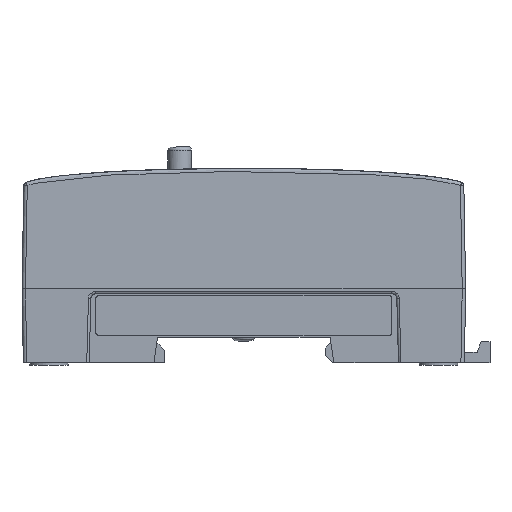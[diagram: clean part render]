
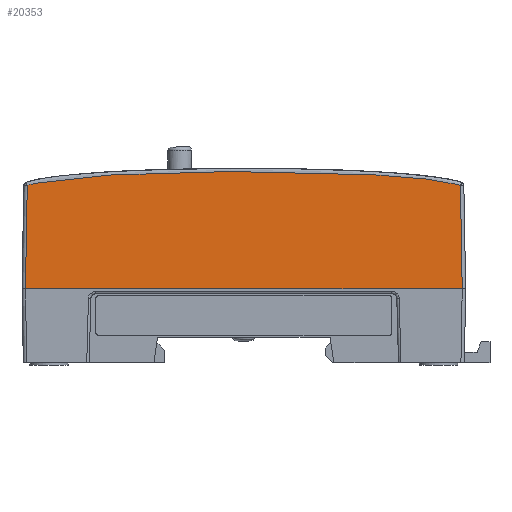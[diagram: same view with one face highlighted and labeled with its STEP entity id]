
A CAD part, left-side view. The second image highlights one B-rep face of the part: STEP entity #20353.
In plain terms, the highlighted planar face has unit normal (-1, 0, 0.018).
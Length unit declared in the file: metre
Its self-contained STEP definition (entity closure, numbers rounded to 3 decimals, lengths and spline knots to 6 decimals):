
#23=B_SPLINE_CURVE_WITH_KNOTS('',3,(#29477,#29478,#29479,#29480,#29481,#29482,#29483,#29484,#29485,#29486,#29487,#29488,#29489,#29490,#29491,#29492,#29493,#29494,#29495,#29496,#29497,#29498,#29499),.UNSPECIFIED.,.F.,.F.,(4,1,1,1,1,1,1,1,1,1,1,1,1,1,1,1,1,1,1,1,4),(0.,0.001385,0.00277,0.00554,0.00831,0.01108,0.01662,0.02216,0.0277,0.03324,0.044319,0.055399,0.060939,0.066479,0.072019,0.077559,0.080329,0.083099,0.085869,0.087254,0.088639),.UNSPECIFIED.);
#1437=ORIENTED_EDGE('',*,*,#6991,.T.);
#1438=ORIENTED_EDGE('',*,*,#7121,.T.);
#1439=ORIENTED_EDGE('',*,*,#7122,.T.);
#1440=ORIENTED_EDGE('',*,*,#7123,.T.);
#6991=EDGE_CURVE('',#9908,#9907,#11889,.F.);
#7121=EDGE_CURVE('',#9907,#9979,#11987,.F.);
#7122=EDGE_CURVE('',#9979,#9980,#23,.T.);
#7123=EDGE_CURVE('',#9980,#9908,#11988,.F.);
#9907=VERTEX_POINT('',#28997);
#9908=VERTEX_POINT('',#28999);
#9979=VERTEX_POINT('',#29476);
#9980=VERTEX_POINT('',#29500);
#11889=LINE('',#28998,#14360);
#11987=LINE('',#29475,#14458);
#11988=LINE('',#29501,#14459);
#14360=VECTOR('',#23973,1.);
#14458=VECTOR('',#24241,1.);
#14459=VECTOR('',#24242,1.);
#16777=EDGE_LOOP('',(#1437,#1438,#1439,#1440));
#18108=FACE_BOUND('',#16777,.T.);
#19397=PLANE('',#22593);
#20353=ADVANCED_FACE('TopABS',(#18108),#19397,.T.);
#22593=AXIS2_PLACEMENT_3D('',#29474,#24239,#24240);
#23973=DIRECTION('',(0.,1.,0.));
#24239=DIRECTION('',(-1.,0.,0.017));
#24240=DIRECTION('',(0.017,0.,1.));
#24241=DIRECTION('',(-0.017,-0.017,-1.));
#24242=DIRECTION('',(0.017,-0.017,1.));
#28997=CARTESIAN_POINT('',(-0.05375,-0.0443,0.));
#28998=CARTESIAN_POINT('',(-0.05375,0.,0.));
#28999=CARTESIAN_POINT('',(-0.05375,0.0443,0.));
#29474=CARTESIAN_POINT('',(-0.05375,0.,0.));
#29475=CARTESIAN_POINT('',(-0.053379,-0.043929,0.021245));
#29476=CARTESIAN_POINT('',(-0.053385,-0.043935,0.020909));
#29477=CARTESIAN_POINT('',(-0.053385,-0.043935,0.020909));
#29478=CARTESIAN_POINT('',(-0.053381,-0.043525,0.021124));
#29479=CARTESIAN_POINT('',(-0.053377,-0.042631,0.021367));
#29480=CARTESIAN_POINT('',(-0.05337,-0.040836,0.021759));
#29481=CARTESIAN_POINT('',(-0.053364,-0.038558,0.022097));
#29482=CARTESIAN_POINT('',(-0.053359,-0.035817,0.022417));
#29483=CARTESIAN_POINT('',(-0.053353,-0.032155,0.02276));
#29484=CARTESIAN_POINT('',(-0.053347,-0.02757,0.023085));
#29485=CARTESIAN_POINT('',(-0.053342,-0.022059,0.02337));
#29486=CARTESIAN_POINT('',(-0.053338,-0.016545,0.023575));
#29487=CARTESIAN_POINT('',(-0.053335,-0.009193,0.02376));
#29488=CARTESIAN_POINT('',(-0.053334,-0.000001,0.023847));
#29489=CARTESIAN_POINT('',(-0.053335,0.009196,0.02376));
#29490=CARTESIAN_POINT('',(-0.053339,0.016547,0.023575));
#29491=CARTESIAN_POINT('',(-0.053342,0.022058,0.02337));
#29492=CARTESIAN_POINT('',(-0.053347,0.027566,0.023086));
#29493=CARTESIAN_POINT('',(-0.053353,0.032152,0.022761));
#29494=CARTESIAN_POINT('',(-0.053359,0.035817,0.022417));
#29495=CARTESIAN_POINT('',(-0.053364,0.038557,0.022097));
#29496=CARTESIAN_POINT('',(-0.05337,0.040832,0.02176));
#29497=CARTESIAN_POINT('',(-0.053377,0.042633,0.021366));
#29498=CARTESIAN_POINT('',(-0.053381,0.043521,0.021126));
#29499=CARTESIAN_POINT('',(-0.053385,0.043935,0.020909));
#29500=CARTESIAN_POINT('',(-0.053385,0.043935,0.020909));
#29501=CARTESIAN_POINT('',(-0.053737,0.044287,0.000773));
